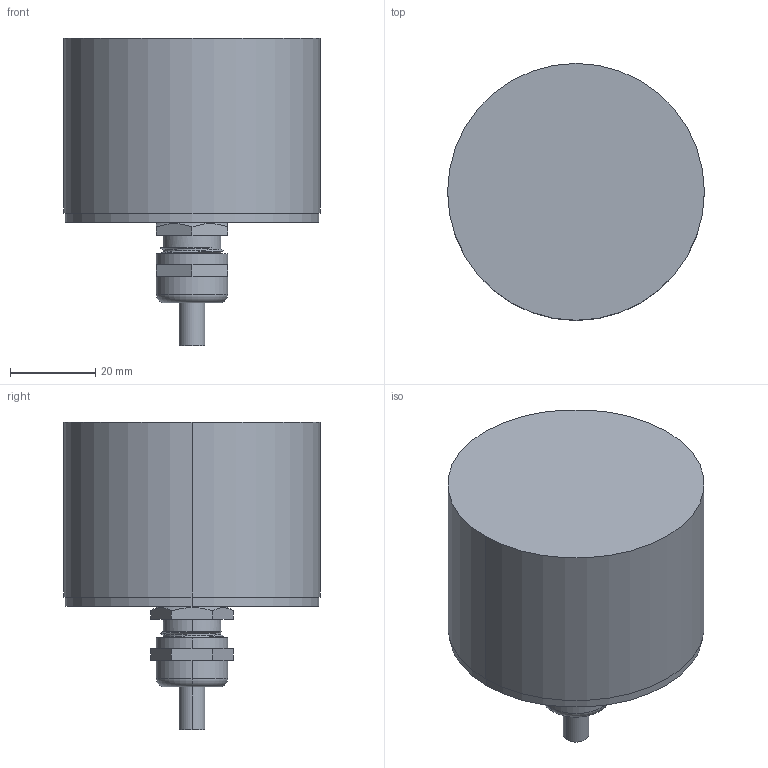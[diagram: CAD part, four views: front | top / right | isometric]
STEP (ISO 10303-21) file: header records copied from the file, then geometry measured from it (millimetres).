
FILE_DESCRIPTION (( 'STEP AP203' ), '1' );
FILE_NAME ('Drawing-OC-6-TC-432-2NM-12TNNN-Y-CAW-N.STEP', '2013-04-24T12:12:32', ( '' ), ( '' ), 'SwSTEP 2.0', 'SolidWorks 2006104', '' );
FILE_SCHEMA (( 'CONFIG_CONTROL_DESIGN' ));
Length unit declared in the file: millimetre
Products named in the file (1): Drawing-OC-6-TC-432-2NM-12TNNN-Y-CAW-N
Bounding box: 60.3 x 60.3 x 72.13 mm (x, y, z)
Volume: 30121.3 mm3; surface area: 31231.5 mm2
Topology: 10 solids, 10 shells, 327 faces, 779 edges, 478 vertices
Faces by surface type: cone 108, cylinder 94, plane 72, torus 49, bspline 4
Entity records: 11275 total; most frequent: CARTESIAN_POINT 3535, DIRECTION 1747, ORIENTED_EDGE 1546, EDGE_CURVE 773, AXIS2_PLACEMENT_3D 761, VERTEX_POINT 478, CIRCLE 437, EDGE_LOOP 355
